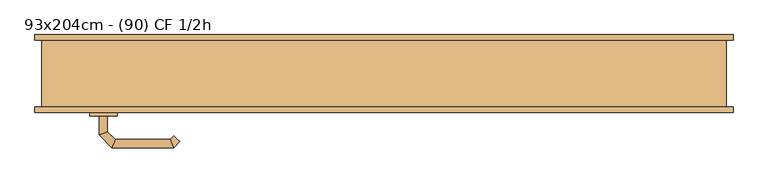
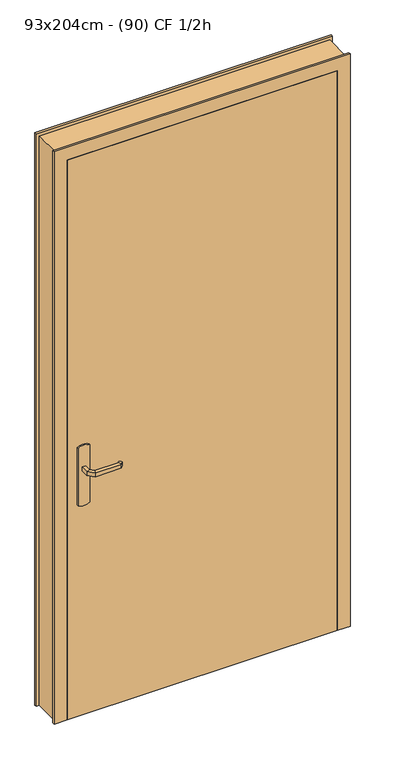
"""IFC4 building model written with IfcOpenShell, lengths in millimetres: door geometry, C&L Int. Simple vantail (dormant variable) : 93x204cm - (90) CF 1/2h."""

from ifc_helpers import new_model, si_unit, point, frame, frame_2d, origin, origin_with_axes, place, context, project, spatial, polyline, circle_curve, ellipse_curve, trimmed, segment, composite_curve, outline, extrude, faceted_brep, source, transform, mapped, element, save
from ifc_brep_helpers import plane_surface, cylinder_surface, advanced_brep


def door_93x204cm_90_cf_1_2h_8d5a7c17(model_context):
    return source(origin(), model_context, "Body", "SolidModel", [
        extrude(outline(composite_curve([segment(trimmed(circle_curve(frame_2d((804.6410162, -410.0)), 40.0), [point((770.0, -430.0))], [point((770.0, -390.0))], False, "CARTESIAN"), True, "CONTINUOUS"), segment(polyline([(770.0, -390.0), (980.0, -390.0)]), True, "CONTINUOUS"), segment(trimmed(circle_curve(frame_2d((945.3589838, -410.0)), 40.0), [point((980.0, -390.0))], [point((980.0, -430.0))], False, "CARTESIAN"), True, "CONTINUOUS"), segment(polyline([(980.0, -430.0), (770.0, -430.0)]), True, "CONTINUOUS")], self_intersect=False)), frame((0.0, -62.0, 0.0), z_axis=(0.0, 1.0, 0.0), x_axis=(0.0, 0.0, 1.0)), (0.0, 0.0, 1.0), 5.0),
        extrude(outline(composite_curve([segment(trimmed(circle_curve(frame_2d((945.3589838, -410.0)), 40.0), [point((980.0, -390.0))], [point((980.0, -430.0))], False, "CARTESIAN"), True, "CONTINUOUS"), segment(polyline([(980.0, -430.0), (770.0, -430.0)]), True, "CONTINUOUS"), segment(trimmed(circle_curve(frame_2d((804.6410162, -410.0)), 40.0), [point((770.0, -430.0))], [point((770.0, -390.0))], False, "CARTESIAN"), True, "CONTINUOUS"), segment(polyline([(770.0, -390.0), (980.0, -390.0)]), True, "CONTINUOUS")], self_intersect=False)), frame((0.0, -17.0, 0.0), z_axis=(0.0, 1.0, 0.0), x_axis=(0.0, 0.0, 1.0)), (0.0, 0.0, 1.0), 5.0),
        advanced_brep(
        [(-416.0, -62.0, 907.0), (-404.0, -62.0, 907.0), (-404.0, -62.0, 893.0), (-416.0, -62.0, 893.0), (-416.0, -89.6509507, 907.0), (-404.0, -84.680388, 907.0), (-404.0, -84.680388, 893.0), (-416.0, -89.6509507, 893.0), (-397.62279, -108.0281607, 907.0), (-392.6522273, -96.0281607, 907.0), (-392.6522273, -96.0281607, 893.0), (-397.62279, -108.0281607, 893.0), (-307.496078, -108.0281607, 907.0), (-312.4666408, -96.0281607, 907.0), (-312.4666408, -96.0281607, 893.0), (-307.496078, -108.0281607, 893.0), (-298.6676509, -99.1997336, 907.0), (-298.6676509, -99.1997336, 893.0), (-307.1529323, -90.7144522, 893.0), (-307.1529323, -90.7144522, 907.0)],
        [
            (0, 1, circle_curve(frame((-410.0, -62.0, 886.9542278), z_axis=(0.0, 1.0, 0.0), x_axis=(1.0, 0.0, 0.0)), 20.9244589)),
            (1, 2),
            (2, 3, circle_curve(frame((-410.0, -62.0, 913.0457722), z_axis=(0.0, 1.0, 0.0), x_axis=(1.0, 0.0, 0.0)), 20.9244589)),
            (3, 0),
            (0, 4),
            (4, 5, ellipse_curve(frame((-410.0, -87.1656693, 886.9542278), z_axis=(-0.3826834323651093, 0.9238795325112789, 0.0), x_axis=(0.9238795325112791, 0.38268343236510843, 0.0)), 22.6484711, 20.9244589)),
            (5, 1),
            (5, 6),
            (6, 2),
            (6, 7, ellipse_curve(frame((-410.0, -87.1656693, 913.0457722), z_axis=(-0.3826834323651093, 0.9238795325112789, 0.0), x_axis=(0.9238795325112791, 0.38268343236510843, 0.0)), 22.6484711, 20.9244589)),
            (7, 3),
            (7, 4),
            (4, 8),
            (8, 9, ellipse_curve(frame((-395.1375086, -102.0281607, 886.9542278), z_axis=(-0.9238795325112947, 0.38268343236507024, 0.0), x_axis=(0.3826834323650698, 0.9238795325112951, 0.0)), 22.6484711, 20.9244589)),
            (9, 5),
            (9, 10),
            (10, 6),
            (10, 11, ellipse_curve(frame((-395.1375086, -102.0281607, 913.0457722), z_axis=(-0.9238795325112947, 0.38268343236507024, 0.0), x_axis=(0.3826834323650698, 0.9238795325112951, 0.0)), 22.6484711, 20.9244589)),
            (11, 7),
            (11, 8),
            (8, 12),
            (12, 13, ellipse_curve(frame((-309.9813594, -102.0281607, 886.9542278), z_axis=(-0.9238795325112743, -0.3826834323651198, 0.0), x_axis=(-0.38268343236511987, 0.9238795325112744, 0.0)), 22.6484711, 20.9244589)),
            (13, 9),
            (13, 14),
            (14, 10),
            (14, 15, ellipse_curve(frame((-309.9813594, -102.0281607, 913.0457722), z_axis=(-0.9238795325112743, -0.3826834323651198, 0.0), x_axis=(-0.38268343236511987, 0.9238795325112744, 0.0)), 22.6484711, 20.9244589)),
            (15, 11),
            (15, 12),
            (16, 17),
            (17, 18, circle_curve(frame((-302.9102916, -94.9570929, 913.0457722), z_axis=(0.7071067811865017, 0.7071067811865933, 0.0), x_axis=(-0.7071067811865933, 0.7071067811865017, 0.0)), 20.9244589)),
            (18, 19),
            (19, 16, circle_curve(frame((-302.9102916, -94.9570929, 886.9542278), z_axis=(0.7071067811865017, 0.7071067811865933, 0.0), x_axis=(-0.7071067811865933, 0.7071067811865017, 0.0)), 20.9244589)),
            (12, 16),
            (19, 13),
            (18, 14),
            (17, 15),
        ],
        [
            plane_surface(frame((-419.2195445, -62.0, 900.0), z_axis=(0.0, 1.0, 0.0), x_axis=(0.0, 0.0, -1.0))),
            cylinder_surface(frame((-410.0, -62.0, 886.9542278), z_axis=(0.0, 1.0, 0.0), x_axis=(1.0, 0.0, 0.0)), 20.9244589),
            plane_surface(frame((-404.0, -62.0, 907.0), z_axis=(1.0, 0.0, 0.0), x_axis=(0.0, -1.0, 0.0))),
            cylinder_surface(frame((-410.0, -62.0, 913.0457722), z_axis=(0.0, 1.0, 0.0), x_axis=(1.0, 0.0, 0.0)), 20.9244589),
            plane_surface(frame((-416.0, -62.0, 893.0), z_axis=(-1.0, 0.0, 0.0), x_axis=(0.0, -1.0, 0.0))),
            cylinder_surface(frame((-410.0, -87.1656693, 886.9542278), z_axis=(-0.7071067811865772, 0.7071067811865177, 0.0), x_axis=(0.7071067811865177, 0.7071067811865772, 0.0)), 20.9244589),
            plane_surface(frame((-404.0, -84.680388, 907.0), z_axis=(0.7071067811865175, 0.7071067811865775, 0.0), x_axis=(0.7071067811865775, -0.7071067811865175, 0.0))),
            cylinder_surface(frame((-410.0, -87.1656693, 913.0457722), z_axis=(-0.7071067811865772, 0.7071067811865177, 0.0), x_axis=(0.7071067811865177, 0.7071067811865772, 0.0)), 20.9244589),
            plane_surface(frame((-416.0, -89.6509507, 893.0), z_axis=(-0.7071067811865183, -0.7071067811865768, 0.0), x_axis=(0.7071067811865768, -0.7071067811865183, 0.0))),
            cylinder_surface(frame((-395.1375086, -102.0281607, 886.9542278), z_axis=(-1.0, 0.0, 0.0), x_axis=(0.0, 1.0, 0.0)), 20.9244589),
            plane_surface(frame((-392.6522273, -96.0281607, 907.0), z_axis=(0.0, 1.0, 0.0), x_axis=(1.0, 0.0, 0.0))),
            cylinder_surface(frame((-395.1375086, -102.0281607, 913.0457722), z_axis=(-1.0, 0.0, 0.0), x_axis=(0.0, 1.0, 0.0)), 20.9244589),
            plane_surface(frame((-397.62279, -108.0281607, 893.0), z_axis=(0.0, -1.0, 0.0), x_axis=(1.0, 0.0, 0.0))),
            plane_surface(frame((-302.9102916, -94.9570929, 909.2195445), z_axis=(0.7071067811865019, 0.7071067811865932, 0.0), x_axis=(0.7071067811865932, -0.7071067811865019, 0.0))),
            cylinder_surface(frame((-309.9813594, -102.0281607, 886.9542278), z_axis=(-0.7071067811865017, -0.7071067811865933, 0.0), x_axis=(-0.7071067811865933, 0.7071067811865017, 0.0)), 20.9244589),
            plane_surface(frame((-312.4666408, -96.0281607, 907.0), z_axis=(-0.7071067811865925, 0.7071067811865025, 0.0), x_axis=(0.7071067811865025, 0.7071067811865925, 0.0))),
            cylinder_surface(frame((-309.9813594, -102.0281607, 913.0457722), z_axis=(-0.7071067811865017, -0.7071067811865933, 0.0), x_axis=(-0.7071067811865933, 0.7071067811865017, 0.0)), 20.9244589),
            plane_surface(frame((-307.496078, -108.0281607, 893.0), z_axis=(0.707106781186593, -0.7071067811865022, 0.0), x_axis=(0.7071067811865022, 0.707106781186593, 0.0))),
        ],
        [
            (0, [[1, 2, 3, 4]]),
            (1, [[-1, 5, 6, 7]]),
            (2, [[-2, -7, 8, 9]]),
            (3, [[-3, -9, 10, 11]]),
            (4, [[-4, -11, 12, -5]]),
            (5, [[-6, 13, 14, 15]]),
            (6, [[-8, -15, 16, 17]]),
            (7, [[-10, -17, 18, 19]]),
            (8, [[-12, -19, 20, -13]]),
            (9, [[-14, 21, 22, 23]]),
            (10, [[-16, -23, 24, 25]]),
            (11, [[-18, -25, 26, 27]]),
            (12, [[-20, -27, 28, -21]]),
            (13, [[29, 30, 31, 32]]),
            (14, [[-22, 33, -32, 34]]),
            (15, [[-24, -34, -31, 35]]),
            (16, [[-26, -35, -30, 36]]),
            (17, [[-28, -36, -29, -33]]),
        ],
    ),
        advanced_brep(
        [(-404.0, -12.0, 893.0), (-404.0, -12.0, 907.0), (-416.0, -12.0, 907.0), (-416.0, -12.0, 893.0), (-404.0, 10.4852045, 893.0), (-404.0, 10.4852045, 907.0), (-416.0, 15.4557673, 907.0), (-416.0, 15.4557673, 893.0), (-392.5147186, 21.9704859, 893.0), (-392.5147186, 21.9704859, 907.0), (-397.4852814, 33.9704859, 907.0), (-397.4852814, 33.9704859, 893.0), (-312.4394977, 21.9704859, 893.0), (-312.4394977, 21.9704859, 907.0), (-307.468935, 33.9704859, 907.0), (-307.468935, 33.9704859, 893.0), (-307.1257892, 16.6567774, 893.0), (-298.6405078, 25.1420588, 893.0), (-298.6405078, 25.1420588, 907.0), (-307.1257892, 16.6567774, 907.0)],
        [
            (0, 1),
            (1, 2, circle_curve(frame((-410.0, -12.0, 886.9542278), z_axis=(0.0, -1.0, 0.0), x_axis=(-1.0, 0.0, 0.0)), 20.9244589)),
            (2, 3),
            (3, 0, circle_curve(frame((-410.0, -12.0, 913.0457722), z_axis=(0.0, -1.0, 0.0), x_axis=(-1.0, 0.0, 0.0)), 20.9244589)),
            (0, 4),
            (4, 5),
            (5, 1),
            (5, 6, ellipse_curve(frame((-410.0, 12.9704859, 886.9542278), z_axis=(-0.3826834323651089, -0.9238795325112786, 0.0), x_axis=(0.9238795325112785, -0.3826834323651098, 0.0)), 22.6484711, 20.9244589)),
            (6, 2),
            (6, 7),
            (7, 3),
            (7, 4, ellipse_curve(frame((-410.0, 12.9704859, 913.0457722), z_axis=(-0.3826834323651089, -0.9238795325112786, 0.0), x_axis=(0.9238795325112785, -0.3826834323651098, 0.0)), 22.6484711, 20.9244589)),
            (4, 8),
            (8, 9),
            (9, 5),
            (9, 10, ellipse_curve(frame((-395.0, 27.9704859, 886.9542278), z_axis=(-0.9238795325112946, -0.38268343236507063, 0.0), x_axis=(0.3826834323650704, -0.9238795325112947, 0.0)), 22.6484711, 20.9244589)),
            (10, 6),
            (10, 11),
            (11, 7),
            (11, 8, ellipse_curve(frame((-395.0, 27.9704859, 913.0457722), z_axis=(-0.9238795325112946, -0.38268343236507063, 0.0), x_axis=(0.3826834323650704, -0.9238795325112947, 0.0)), 22.6484711, 20.9244589)),
            (8, 12),
            (12, 13),
            (13, 9),
            (13, 14, ellipse_curve(frame((-309.9542163, 27.9704859, 886.9542278), z_axis=(-0.9238795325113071, 0.38268343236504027, 0.0), x_axis=(-0.38268343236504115, -0.9238795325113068, 0.0)), 22.6484711, 20.9244589)),
            (14, 10),
            (14, 15),
            (15, 11),
            (15, 12, ellipse_curve(frame((-309.9542163, 27.9704859, 913.0457722), z_axis=(-0.9238795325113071, 0.38268343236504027, 0.0), x_axis=(-0.38268343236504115, -0.9238795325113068, 0.0)), 22.6484711, 20.9244589)),
            (16, 17, circle_curve(frame((-302.8831485, 20.8994181, 913.0457722), z_axis=(0.7071067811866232, -0.7071067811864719, 0.0), x_axis=(0.7071067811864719, 0.7071067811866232, 0.0)), 20.9244589)),
            (17, 18),
            (18, 19, circle_curve(frame((-302.8831485, 20.8994181, 886.9542278), z_axis=(0.7071067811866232, -0.7071067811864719, 0.0), x_axis=(0.7071067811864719, 0.7071067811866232, 0.0)), 20.9244589)),
            (19, 16),
            (12, 16),
            (19, 13),
            (18, 14),
            (17, 15),
        ],
        [
            plane_surface(frame((-419.2195445, -12.0, 900.0), z_axis=(0.0, -1.0, 0.0), x_axis=(0.0, 0.0, 1.0))),
            plane_surface(frame((-404.0, -12.0, 893.0), z_axis=(1.0, 0.0, 0.0), x_axis=(0.0, 1.0, 0.0))),
            cylinder_surface(frame((-410.0, -12.0, 886.9542278), z_axis=(0.0, -1.0, 0.0), x_axis=(-1.0, 0.0, 0.0)), 20.9244589),
            plane_surface(frame((-416.0, -12.0, 907.0), z_axis=(-1.0, 0.0, 0.0), x_axis=(0.0, 1.0, 0.0))),
            cylinder_surface(frame((-410.0, -12.0, 913.0457722), z_axis=(0.0, -1.0, 0.0), x_axis=(-1.0, 0.0, 0.0)), 20.9244589),
            plane_surface(frame((-404.0, 10.4852045, 893.0), z_axis=(0.707106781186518, -0.707106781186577, 0.0), x_axis=(0.707106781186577, 0.707106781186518, 0.0))),
            cylinder_surface(frame((-410.0, 12.9704859, 886.9542278), z_axis=(-0.7071067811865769, -0.7071067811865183, 0.0), x_axis=(-0.7071067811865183, 0.7071067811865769, 0.0)), 20.9244589),
            plane_surface(frame((-416.0, 15.4557673, 907.0), z_axis=(-0.7071067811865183, 0.7071067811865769, 0.0), x_axis=(0.7071067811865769, 0.7071067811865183, 0.0))),
            cylinder_surface(frame((-410.0, 12.9704859, 913.0457722), z_axis=(-0.7071067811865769, -0.7071067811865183, 0.0), x_axis=(-0.7071067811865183, 0.7071067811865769, 0.0)), 20.9244589),
            plane_surface(frame((-392.5147186, 21.9704859, 893.0), z_axis=(0.0, -1.0, 0.0), x_axis=(1.0, 0.0, 0.0))),
            cylinder_surface(frame((-395.0, 27.9704859, 886.9542278), z_axis=(-1.0, 0.0, 0.0), x_axis=(0.0, 1.0, 0.0)), 20.9244589),
            plane_surface(frame((-397.4852814, 33.9704859, 907.0), z_axis=(0.0, 1.0, 0.0), x_axis=(1.0, 0.0, 0.0))),
            cylinder_surface(frame((-395.0, 27.9704859, 913.0457722), z_axis=(-1.0, 0.0, 0.0), x_axis=(0.0, 1.0, 0.0)), 20.9244589),
            plane_surface(frame((-302.8831485, 20.8994181, 890.7804555), z_axis=(0.7071067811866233, -0.7071067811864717, 0.0), x_axis=(0.7071067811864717, 0.7071067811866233, 0.0))),
            plane_surface(frame((-312.4394977, 21.9704859, 893.0), z_axis=(-0.7071067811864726, -0.7071067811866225, 0.0), x_axis=(0.7071067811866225, -0.7071067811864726, 0.0))),
            cylinder_surface(frame((-309.9542163, 27.9704859, 886.9542278), z_axis=(-0.7071067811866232, 0.7071067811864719, 0.0), x_axis=(0.7071067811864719, 0.7071067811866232, 0.0)), 20.9244589),
            plane_surface(frame((-307.468935, 33.9704859, 907.0), z_axis=(0.7071067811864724, 0.7071067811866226, 0.0), x_axis=(0.7071067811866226, -0.7071067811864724, 0.0))),
            cylinder_surface(frame((-309.9542163, 27.9704859, 913.0457722), z_axis=(-0.7071067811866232, 0.7071067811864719, 0.0), x_axis=(0.7071067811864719, 0.7071067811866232, 0.0)), 20.9244589),
        ],
        [
            (0, [[1, 2, 3, 4]]),
            (1, [[-1, 5, 6, 7]]),
            (2, [[-2, -7, 8, 9]]),
            (3, [[-3, -9, 10, 11]]),
            (4, [[-4, -11, 12, -5]]),
            (5, [[-6, 13, 14, 15]]),
            (6, [[-8, -15, 16, 17]]),
            (7, [[-10, -17, 18, 19]]),
            (8, [[-12, -19, 20, -13]]),
            (9, [[-14, 21, 22, 23]]),
            (10, [[-16, -23, 24, 25]]),
            (11, [[-18, -25, 26, 27]]),
            (12, [[-20, -27, 28, -21]]),
            (13, [[29, 30, 31, 32]]),
            (14, [[-22, 33, -32, 34]]),
            (15, [[-24, -34, -31, 35]]),
            (16, [[-26, -35, -30, 36]]),
            (17, [[-28, -36, -29, -33]]),
        ],
    ),
        faceted_brep([(-500.0, -49.0, 0.0), (-500.0, 49.0, 0.0), (-510.0, 49.0, 0.0), (-510.0, 57.0, 0.0), (-450.0, 57.0, 0.0), (-450.0, -17.0, 0.0), (-465.0, -17.0, 0.0), (-465.0, -57.0, 0.0), (-510.0, -57.0, 0.0), (-510.0, -49.0, 0.0), (-500.0, -49.0, 2075.0), (-500.0, 49.0, 2075.0), (500.0, 49.0, 2075.0), (500.0, 49.0, 0.0), (510.0, 49.0, 0.0), (510.0, 49.0, 2085.0), (-510.0, 49.0, 2085.0), (-510.0, 57.0, 2085.0), (510.0, 57.0, 2085.0), (510.0, 57.0, 0.0), (450.0, 57.0, 0.0), (450.0, 57.0, 2025.0), (-450.0, 57.0, 2025.0), (-450.0, -17.0, 2025.0), (450.0, -17.0, 2025.0), (450.0, -17.0, 0.0), (465.0, -17.0, 0.0), (465.0, -17.0, 2040.0), (-465.0, -17.0, 2040.0), (-465.0, -57.0, 2040.0), (465.0, -57.0, 2040.0), (465.0, -57.0, 0.0), (510.0, -57.0, 0.0), (510.0, -57.0, 2085.0), (-510.0, -57.0, 2085.0), (-510.0, -49.0, 2085.0), (510.0, -49.0, 2085.0), (510.0, -49.0, 0.0), (500.0, -49.0, 0.0), (500.0, -49.0, 2075.0)], [[[0, 1, 2, 3, 4, 5, 6, 7, 8, 9]], [[1, 0, 10, 11]], [[2, 1, 11, 12, 13, 14, 15, 16]], [[3, 2, 16, 17]], [[4, 3, 17, 18, 19, 20, 21, 22]], [[5, 4, 22, 23]], [[6, 5, 23, 24, 25, 26, 27, 28]], [[7, 6, 28, 29]], [[8, 7, 29, 30, 31, 32, 33, 34]], [[9, 8, 34, 35]], [[0, 9, 35, 36, 37, 38, 39, 10]], [[11, 10, 39, 12]], [[17, 16, 15, 18]], [[23, 22, 21, 24]], [[29, 28, 27, 30]], [[35, 34, 33, 36]], [[38, 37, 32, 31, 26, 25, 20, 19, 14, 13]], [[12, 39, 38, 13]], [[18, 15, 14, 19]], [[24, 21, 20, 25]], [[30, 27, 26, 31]], [[36, 33, 32, 37]]]),
        extrude(outline(polyline([(465.0, -57.0), (-465.0, -57.0), (-465.0, -17.0), (465.0, -17.0), (465.0, -57.0)])), origin_with_axes(), (0.0, 0.0, 1.0), 2040.0),
    ])


if __name__ == "__main__":
    model = new_model("IFC4")
    model_context = context("Model", 3, world=origin())
    ifc_project = project(units=[si_unit("LENGTHUNIT", "METRE", prefix="MILLI")], contexts=[model_context])
    site = spatial("IfcSite", under=ifc_project)
    building = spatial("IfcBuilding", under=site)
    placement = place(None, origin())
    door_93x204cm_90_cf_1_2h_shape = door_93x204cm_90_cf_1_2h_8d5a7c17(model_context)
    element("IfcDoor", 1, ObjectType="C&L Int. Simple vantail (dormant variable) : 93x204cm - (90) CF 1/2h", at=placement, inside=building, context=model_context, shape_type="MappedRepresentation", body=[
        mapped(door_93x204cm_90_cf_1_2h_shape, transform((0.0, 0.0, 0.0), x_axis=(1.0, 0.0, 0.0), y_axis=(0.0, 1.0, 0.0), z_axis=(0.0, 0.0, 1.0))),
    ])
    save(model, "model.ifc")
